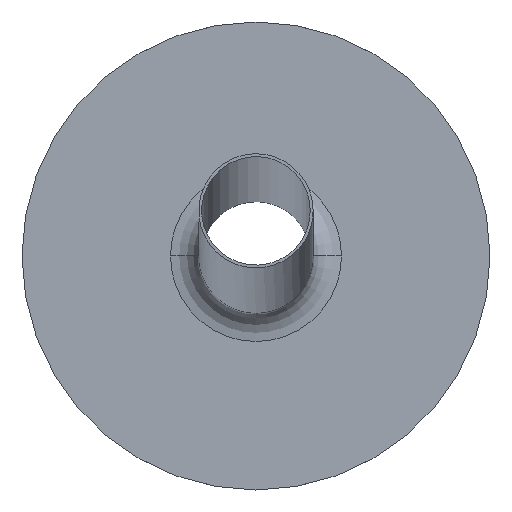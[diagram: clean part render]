
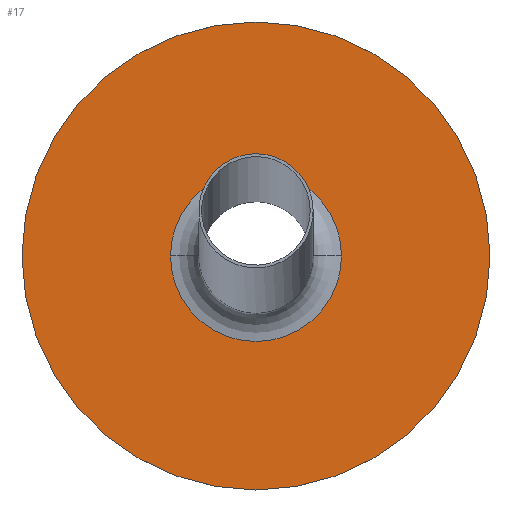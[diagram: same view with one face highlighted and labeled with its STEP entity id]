
A CAD part, top view. The second image highlights one B-rep face of the part: STEP entity #17.
In plain terms, the highlighted planar face has unit normal (0, 0, 1).
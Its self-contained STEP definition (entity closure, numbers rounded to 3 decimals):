
#17 = ADVANCED_FACE('',(#18,#38),#49,.T.);
#18 = FACE_BOUND('',#19,.T.);
#19 = EDGE_LOOP('',(#20,#31));
#20 = ORIENTED_EDGE('',*,*,#21,.F.);
#21 = EDGE_CURVE('',#22,#24,#26,.T.);
#22 = VERTEX_POINT('',#23);
#23 = CARTESIAN_POINT('',(-4.523,0.,0.3));
#24 = VERTEX_POINT('',#25);
#25 = CARTESIAN_POINT('',(4.523,0.,0.3));
#26 = CIRCLE('',#27,4.523);
#27 = AXIS2_PLACEMENT_3D('',#28,#29,#30);
#28 = CARTESIAN_POINT('',(0.,0.,0.3));
#29 = DIRECTION('',(0.,0.,1.));
#30 = DIRECTION('',(-1.,0.,0.));
#31 = ORIENTED_EDGE('',*,*,#32,.F.);
#32 = EDGE_CURVE('',#24,#22,#33,.T.);
#33 = CIRCLE('',#34,4.523);
#34 = AXIS2_PLACEMENT_3D('',#35,#36,#37);
#35 = CARTESIAN_POINT('',(0.,0.,0.3));
#36 = DIRECTION('',(0.,0.,1.));
#37 = DIRECTION('',(1.,0.,0.));
#38 = FACE_BOUND('',#39,.T.);
#39 = EDGE_LOOP('',(#40));
#40 = ORIENTED_EDGE('',*,*,#41,.T.);
#41 = EDGE_CURVE('',#42,#42,#44,.T.);
#42 = VERTEX_POINT('',#43);
#43 = CARTESIAN_POINT('',(-12.375,0.,0.3));
#44 = CIRCLE('',#45,12.375);
#45 = AXIS2_PLACEMENT_3D('',#46,#47,#48);
#46 = CARTESIAN_POINT('',(0.,0.,0.3));
#47 = DIRECTION('',(0.,0.,1.));
#48 = DIRECTION('',(-1.,0.,0.));
#49 = PLANE('',#50);
#50 = AXIS2_PLACEMENT_3D('',#51,#52,#53);
#51 = CARTESIAN_POINT('',(0.,0.,0.3));
#52 = DIRECTION('',(0.,0.,1.));
#53 = DIRECTION('',(-1.,0.,0.));
